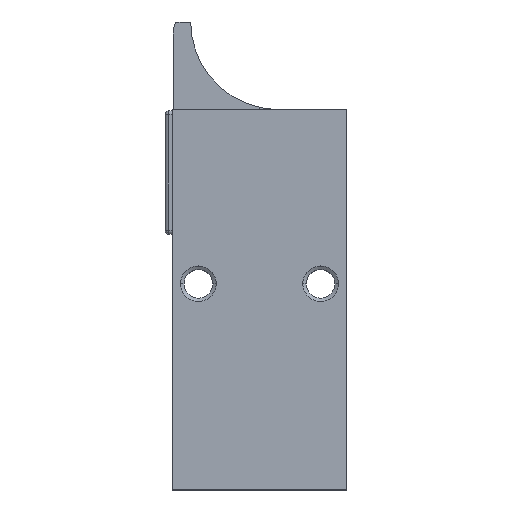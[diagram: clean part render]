
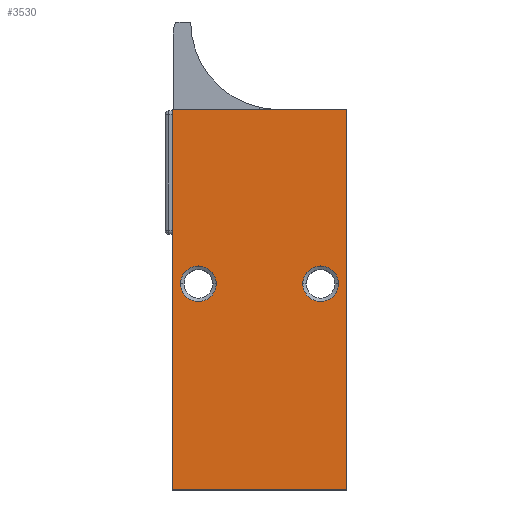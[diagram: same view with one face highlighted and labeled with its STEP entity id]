
A CAD part, top view. The second image highlights one B-rep face of the part: STEP entity #3530.
In plain terms, the highlighted planar face has unit normal (0, 0, 1).
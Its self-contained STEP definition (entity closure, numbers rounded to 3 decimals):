
#115 = LINE ( 'NONE', #1095, #116 ) ;
#116 = VECTOR ( 'NONE', #1853, 1000. ) ;
#199 = ORIENTED_EDGE ( 'NONE', *, *, #3271, .F. ) ;
#218 = AXIS2_PLACEMENT_3D ( 'NONE', #1126, #1131, #1224 ) ;
#282 = EDGE_CURVE ( 'NONE', #2227, #1496, #817, .T. ) ;
#307 = EDGE_CURVE ( 'NONE', #2239, #2227, #815, .T. ) ;
#378 = AXIS2_PLACEMENT_3D ( 'NONE', #1856, #1864, #1088 ) ;
#388 = AXIS2_PLACEMENT_3D ( 'NONE', #2132, #1118, #2353 ) ;
#408 = AXIS2_PLACEMENT_3D ( 'NONE', #2111, #1230, #1214 ) ;
#481 = AXIS2_PLACEMENT_3D ( 'NONE', #865, #1013, #1015 ) ;
#487 = EDGE_CURVE ( 'NONE', #1506, #2239, #582, .T. ) ;
#526 = VECTOR ( 'NONE', #2397, 1000. ) ;
#545 = CIRCLE ( 'NONE', #378, 5.1 ) ;
#582 = LINE ( 'NONE', #1851, #631 ) ;
#631 = VECTOR ( 'NONE', #2049, 1000. ) ;
#681 = ORIENTED_EDGE ( 'NONE', *, *, #3211, .T. ) ;
#750 = ORIENTED_EDGE ( 'NONE', *, *, #487, .T. ) ;
#780 = VECTOR ( 'NONE', #1497, 1000. ) ;
#815 = LINE ( 'NONE', #2240, #526 ) ;
#817 = LINE ( 'NONE', #1104, #780 ) ;
#865 = CARTESIAN_POINT ( 'NONE',  ( 7.5, 59., 40. ) ) ;
#1013 = DIRECTION ( 'NONE',  ( 0., 0., 1. ) ) ;
#1015 = DIRECTION ( 'NONE',  ( 1., 0., 0. ) ) ;
#1088 = DIRECTION ( 'NONE',  ( 1., 0., 0. ) ) ;
#1095 = CARTESIAN_POINT ( 'NONE',  ( 0., 0., 40. ) ) ;
#1104 = CARTESIAN_POINT ( 'NONE',  ( 0., 109., 40. ) ) ;
#1110 = PLANE ( 'NONE',  #218 ) ;
#1118 = DIRECTION ( 'NONE',  ( 0., 0., 1. ) ) ;
#1126 = CARTESIAN_POINT ( 'NONE',  ( 0., 109., 40. ) ) ;
#1131 = DIRECTION ( 'NONE',  ( 0., 0., -1. ) ) ;
#1214 = DIRECTION ( 'NONE',  ( 1., 0., 0. ) ) ;
#1224 = DIRECTION ( 'NONE',  ( -1., 0., 0. ) ) ;
#1230 = DIRECTION ( 'NONE',  ( 0., 0., 1. ) ) ;
#1312 = CARTESIAN_POINT ( 'NONE',  ( 50., 0., 40. ) ) ;
#1496 = VERTEX_POINT ( 'NONE', #2344 ) ;
#1497 = DIRECTION ( 'NONE',  ( -1., 0., 0. ) ) ;
#1506 = VERTEX_POINT ( 'NONE', #2210 ) ;
#1602 = VERTEX_POINT ( 'NONE', #2460 ) ;
#1608 = VERTEX_POINT ( 'NONE', #2190 ) ;
#1610 = VERTEX_POINT ( 'NONE', #2192 ) ;
#1636 = VERTEX_POINT ( 'NONE', #2137 ) ;
#1851 = CARTESIAN_POINT ( 'NONE',  ( 0., 0., 40. ) ) ;
#1853 = DIRECTION ( 'NONE',  ( 0., -1., 0. ) ) ;
#1856 = CARTESIAN_POINT ( 'NONE',  ( 42.5, 59., 40. ) ) ;
#1864 = DIRECTION ( 'NONE',  ( 0., 0., 1. ) ) ;
#2049 = DIRECTION ( 'NONE',  ( 1., 0., 0. ) ) ;
#2111 = CARTESIAN_POINT ( 'NONE',  ( 7.5, 59., 40. ) ) ;
#2132 = CARTESIAN_POINT ( 'NONE',  ( 42.5, 59., 40. ) ) ;
#2137 = CARTESIAN_POINT ( 'NONE',  ( 12.6, 59., 40. ) ) ;
#2190 = CARTESIAN_POINT ( 'NONE',  ( 47.6, 59., 40. ) ) ;
#2192 = CARTESIAN_POINT ( 'NONE',  ( 37.4, 59., 40. ) ) ;
#2210 = CARTESIAN_POINT ( 'NONE',  ( 0., 0., 40. ) ) ;
#2227 = VERTEX_POINT ( 'NONE', #2436 ) ;
#2239 = VERTEX_POINT ( 'NONE', #1312 ) ;
#2240 = CARTESIAN_POINT ( 'NONE',  ( 50., 0., 40. ) ) ;
#2344 = CARTESIAN_POINT ( 'NONE',  ( 0., 109., 40. ) ) ;
#2353 = DIRECTION ( 'NONE',  ( 1., 0., 0. ) ) ;
#2397 = DIRECTION ( 'NONE',  ( 0., 1., 0. ) ) ;
#2436 = CARTESIAN_POINT ( 'NONE',  ( 50., 109., 40. ) ) ;
#2460 = CARTESIAN_POINT ( 'NONE',  ( 2.4, 59., 40. ) ) ;
#2489 = ORIENTED_EDGE ( 'NONE', *, *, #3305, .F. ) ;
#2512 = ORIENTED_EDGE ( 'NONE', *, *, #307, .T. ) ;
#2545 = CIRCLE ( 'NONE', #408, 5.1 ) ;
#2583 = CIRCLE ( 'NONE', #388, 5.1 ) ;
#2637 = FACE_OUTER_BOUND ( 'NONE', #3808, .T. ) ;
#2640 = FACE_BOUND ( 'NONE', #3837, .T. ) ;
#2644 = FACE_BOUND ( 'NONE', #3846, .T. ) ;
#2840 = CIRCLE ( 'NONE', #481, 5.1 ) ;
#3143 = EDGE_CURVE ( 'NONE', #1610, #1608, #545, .T. ) ;
#3211 = EDGE_CURVE ( 'NONE', #1496, #1506, #115, .T. ) ;
#3271 = EDGE_CURVE ( 'NONE', #1636, #1602, #2545, .T. ) ;
#3305 = EDGE_CURVE ( 'NONE', #1608, #1610, #2583, .T. ) ;
#3379 = EDGE_CURVE ( 'NONE', #1602, #1636, #2840, .T. ) ;
#3465 = ORIENTED_EDGE ( 'NONE', *, *, #3143, .F. ) ;
#3484 = ORIENTED_EDGE ( 'NONE', *, *, #282, .T. ) ;
#3530 = ADVANCED_FACE ( 'NONE', ( #2640, #2644, #2637 ), #1110, .F. ) ;
#3808 = EDGE_LOOP ( 'NONE', ( #681, #750, #2512, #3484 ) ) ;
#3837 = EDGE_LOOP ( 'NONE', ( #2489, #3465 ) ) ;
#3846 = EDGE_LOOP ( 'NONE', ( #199, #3905 ) ) ;
#3905 = ORIENTED_EDGE ( 'NONE', *, *, #3379, .F. ) ;
